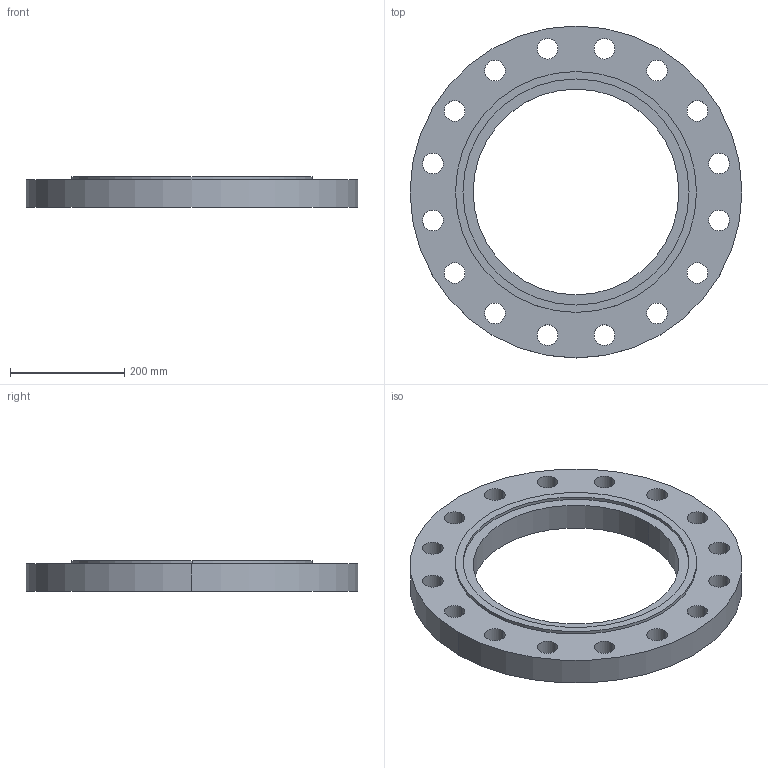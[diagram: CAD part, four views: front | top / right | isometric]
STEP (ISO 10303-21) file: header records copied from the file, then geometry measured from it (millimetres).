
FILE_DESCRIPTION (( 'STEP AP214' ), '1' );
FILE_NAME ('PN40 DN350 Type 01 - Type C Face.STEP', '2019-01-05T21:59:43', ( '' ), ( '' ), 'SwSTEP 2.0', 'SolidWorks 2019', '' );
FILE_SCHEMA (( 'AUTOMOTIVE_DESIGN' ));
Length unit declared in the file: millimetre
Products named in the file (1): PN40 DN350 Type 01 - Type C Face
Bounding box: 580 x 580 x 54 mm (x, y, z)
Volume: 7192864.8 mm3; surface area: 537845.8 mm2
Topology: 1 solids, 1 shells, 44 faces, 120 edges, 80 vertices
Faces by surface type: cylinder 40, plane 4
Entity records: 1546 total; most frequent: DIRECTION 290, CARTESIAN_POINT 245, ORIENTED_EDGE 240, AXIS2_PLACEMENT_3D 125, EDGE_CURVE 120, EDGE_LOOP 80, CIRCLE 80, VERTEX_POINT 80
